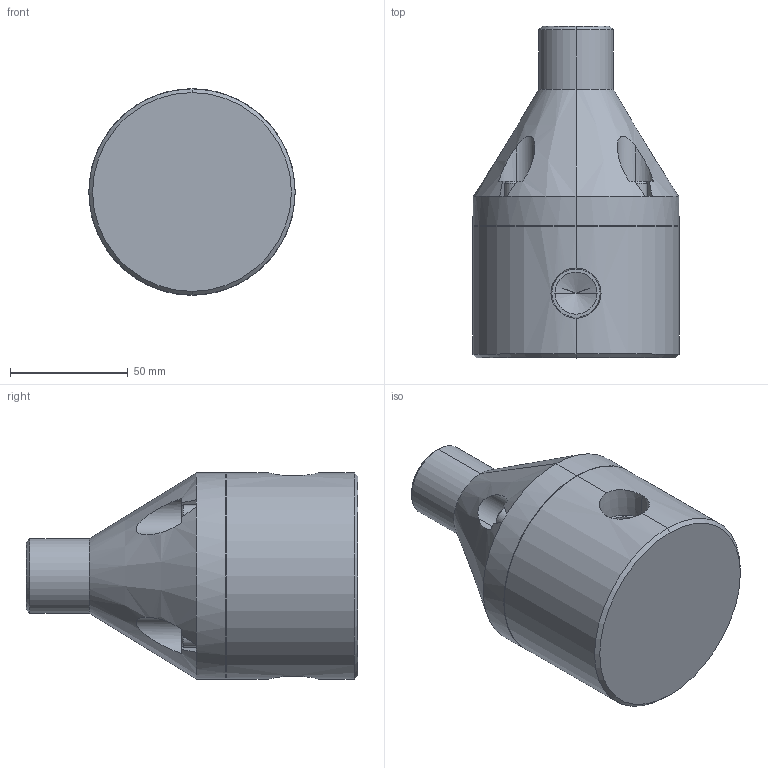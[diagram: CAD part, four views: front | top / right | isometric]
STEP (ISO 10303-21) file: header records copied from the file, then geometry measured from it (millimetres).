
FILE_DESCRIPTION (( 'STEP AP203' ), '1' );
FILE_NAME ('GBP0500-NPT.STEP', '2015-04-27T10:05:18', ( 'Dan Bernard' ), ( '' ), 'SwSTEP 2.0', 'SolidWorks 2008', '' );
FILE_SCHEMA (( 'CONFIG_CONTROL_DESIGN' ));
Length unit declared in the file: inch
Products named in the file (1): GBP0500-NPT
Bounding box: 87.63 x 140.97 x 87.63 mm (x, y, z)
Volume: 552417.6 mm3; surface area: 49015.5 mm2
Topology: 1 solids, 1 shells, 127 faces, 306 edges, 192 vertices
Faces by surface type: plane 71, cylinder 28, cone 26, torus 2
Entity records: 4128 total; most frequent: CARTESIAN_POINT 1069, DIRECTION 630, ORIENTED_EDGE 604, EDGE_CURVE 302, AXIS2_PLACEMENT_3D 222, VERTEX_POINT 192, LINE 186, VECTOR 186
